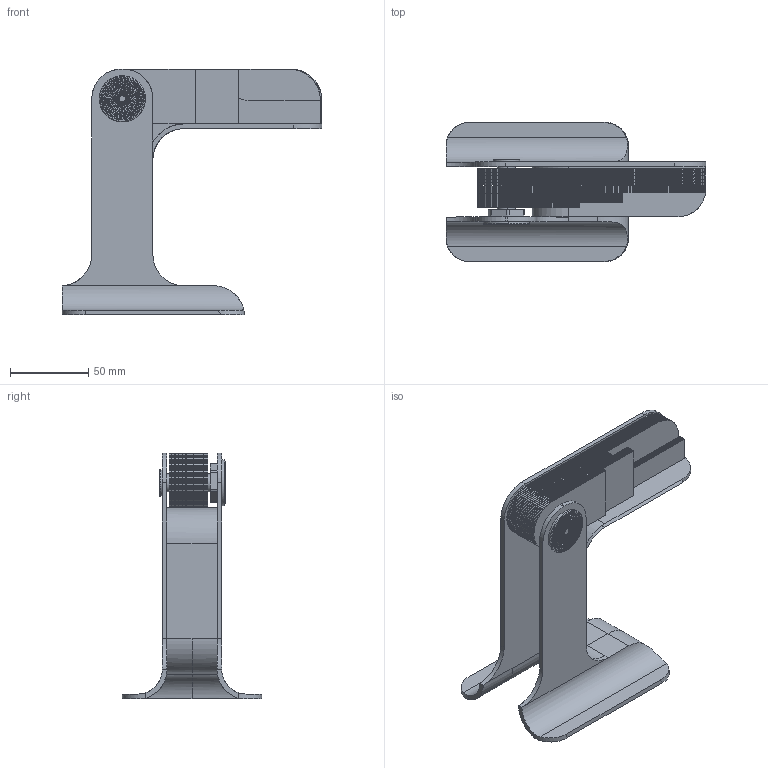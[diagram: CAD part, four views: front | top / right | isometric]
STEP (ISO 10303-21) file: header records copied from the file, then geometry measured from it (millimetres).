
FILE_DESCRIPTION(/* description */ (''),/* implementation_level */ '2;1');
FILE_NAME(/* name */ 'Timor corretto',/* time_stamp */ '2026-03-24T17:50:26+01:00',/* author */ (''),/* organization */ (''),/* preprocessor_version */ 'ST-DEVELOPER v16.5',/* originating_system */ 'Rhino 7.38',/* authorisation */ '');
FILE_SCHEMA (('CONFIG_CONTROL_DESIGN'));
Length unit declared in the file: millimetre
Products named in the file (1): Document
Bounding box: 166 x 89 x 157 mm (x, y, z)
Volume: 76048.6 mm3; surface area: 319799.1 mm2
Topology: 35 solids, 37 shells, 485 faces, 1293 edges, 900 vertices
Faces by surface type: plane 266, cylinder 175, bspline 44
Entity records: 14892 total; most frequent: CARTESIAN_POINT 6509, ORIENTED_EDGE 2568, EDGE_CURVE 1293, VERTEX_POINT 900, EDGE_LOOP 579, B_SPLINE_CURVE_WITH_KNOTS 487, ADVANCED_FACE 485, FACE_OUTER_BOUND 485
